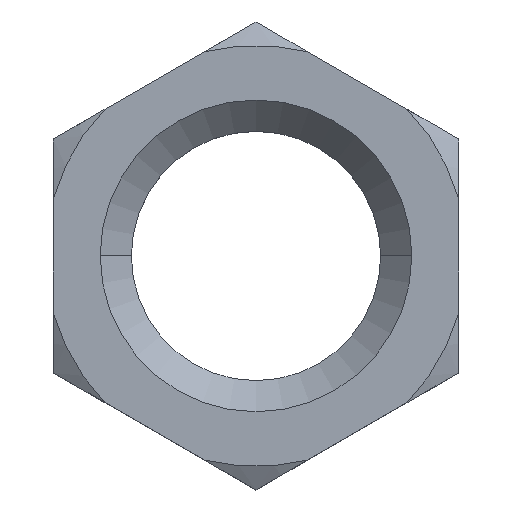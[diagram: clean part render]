
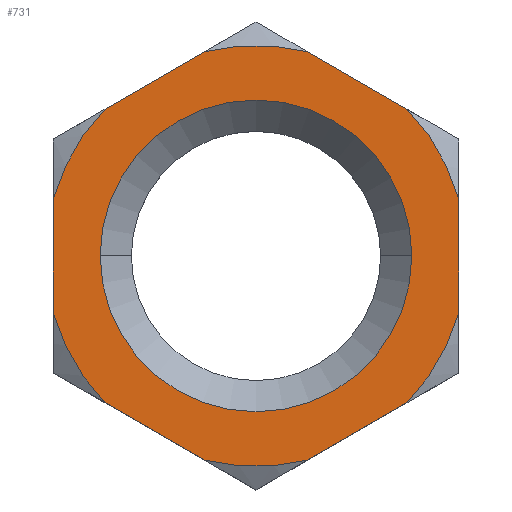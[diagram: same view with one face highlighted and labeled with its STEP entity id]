
A CAD part, top view. The second image highlights one B-rep face of the part: STEP entity #731.
In plain terms, the highlighted planar face has unit normal (0, 0, 1).
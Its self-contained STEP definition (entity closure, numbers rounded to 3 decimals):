
#2 = CARTESIAN_POINT ( 'NONE',  ( 0., 0., 1.85 ) ) ;
#15 = CIRCLE ( 'NONE', #662, 6.756 ) ;
#17 = EDGE_CURVE ( 'NONE', #427, #461, #396, .T. ) ;
#25 = LINE ( 'NONE', #476, #679 ) ;
#36 = ORIENTED_EDGE ( 'NONE', *, *, #506, .F. ) ;
#37 = VECTOR ( 'NONE', #382, 1000. ) ;
#47 = EDGE_CURVE ( 'NONE', #870, #281, #245, .T. ) ;
#48 = DIRECTION ( 'NONE',  ( 1., 0., 0. ) ) ;
#52 = VECTOR ( 'NONE', #556, 1000. ) ;
#57 = EDGE_LOOP ( 'NONE', ( #841, #300 ) ) ;
#58 = CARTESIAN_POINT ( 'NONE',  ( 0., 0., 1.85 ) ) ;
#59 = DIRECTION ( 'NONE',  ( -1., 0., 0. ) ) ;
#72 = DIRECTION ( 'NONE',  ( -1., 0., 0. ) ) ;
#77 = FACE_OUTER_BOUND ( 'NONE', #650, .T. ) ;
#78 = DIRECTION ( 'NONE',  ( 0., 0., -1. ) ) ;
#80 = DIRECTION ( 'NONE',  ( 0., 0., -1. ) ) ;
#82 = AXIS2_PLACEMENT_3D ( 'NONE', #748, #885, #48 ) ;
#100 = DIRECTION ( 'NONE',  ( 1., 0., 0. ) ) ;
#104 = CARTESIAN_POINT ( 'NONE',  ( 0., -7.506, 1.85 ) ) ;
#109 = CARTESIAN_POINT ( 'NONE',  ( 0., 0., 1.85 ) ) ;
#117 = VECTOR ( 'NONE', #742, 1000. ) ;
#120 = CARTESIAN_POINT ( 'NONE',  ( -6.5, 1.841, 1.85 ) ) ;
#125 = VERTEX_POINT ( 'NONE', #780 ) ;
#127 = DIRECTION ( 'NONE',  ( 0., 0., -1. ) ) ;
#129 = ORIENTED_EDGE ( 'NONE', *, *, #843, .T. ) ;
#133 = CARTESIAN_POINT ( 'NONE',  ( -6.5, 3.753, 1.85 ) ) ;
#134 = CARTESIAN_POINT ( 'NONE',  ( 6.5, -1.841, 1.85 ) ) ;
#138 = CIRCLE ( 'NONE', #645, 6.756 ) ;
#148 = ORIENTED_EDGE ( 'NONE', *, *, #47, .F. ) ;
#167 = EDGE_CURVE ( 'NONE', #750, #125, #784, .T. ) ;
#177 = VERTEX_POINT ( 'NONE', #439 ) ;
#184 = CARTESIAN_POINT ( 'NONE',  ( -4.844, 4.709, 1.85 ) ) ;
#186 = FACE_BOUND ( 'NONE', #57, .T. ) ;
#194 = EDGE_CURVE ( 'NONE', #829, #730, #879, .T. ) ;
#200 = DIRECTION ( 'NONE',  ( 0., 0., 1. ) ) ;
#207 = CARTESIAN_POINT ( 'NONE',  ( 1.656, 6.549, 1.85 ) ) ;
#236 = VECTOR ( 'NONE', #915, 1000. ) ;
#241 = AXIS2_PLACEMENT_3D ( 'NONE', #109, #665, #100 ) ;
#243 = EDGE_CURVE ( 'NONE', #750, #344, #15, .T. ) ;
#245 = CIRCLE ( 'NONE', #813, 6.756 ) ;
#247 = CARTESIAN_POINT ( 'NONE',  ( -6.5, -3.753, 1.85 ) ) ;
#251 = CARTESIAN_POINT ( 'NONE',  ( 0., 0., 1.85 ) ) ;
#262 = CARTESIAN_POINT ( 'NONE',  ( 5., 0., 1.85 ) ) ;
#263 = CARTESIAN_POINT ( 'NONE',  ( 6.5, 3.753, 1.85 ) ) ;
#265 = CARTESIAN_POINT ( 'NONE',  ( 0., 0., 1.85 ) ) ;
#267 = EDGE_CURVE ( 'NONE', #722, #384, #577, .T. ) ;
#280 = LINE ( 'NONE', #263, #117 ) ;
#281 = VERTEX_POINT ( 'NONE', #660 ) ;
#285 = EDGE_CURVE ( 'NONE', #461, #427, #595, .T. ) ;
#288 = ORIENTED_EDGE ( 'NONE', *, *, #292, .T. ) ;
#292 = EDGE_CURVE ( 'NONE', #177, #730, #494, .T. ) ;
#297 = ORIENTED_EDGE ( 'NONE', *, *, #194, .F. ) ;
#300 = ORIENTED_EDGE ( 'NONE', *, *, #285, .T. ) ;
#306 = EDGE_CURVE ( 'NONE', #177, #384, #138, .T. ) ;
#325 = CARTESIAN_POINT ( 'NONE',  ( -1.656, 6.549, 1.85 ) ) ;
#326 = VECTOR ( 'NONE', #385, 1000. ) ;
#344 = VERTEX_POINT ( 'NONE', #184 ) ;
#346 = CARTESIAN_POINT ( 'NONE',  ( -5., 0., 1.85 ) ) ;
#364 = EDGE_CURVE ( 'NONE', #705, #344, #25, .T. ) ;
#377 = CIRCLE ( 'NONE', #548, 6.756 ) ;
#378 = ORIENTED_EDGE ( 'NONE', *, *, #837, .T. ) ;
#382 = DIRECTION ( 'NONE',  ( 0.866, 0.5, 0. ) ) ;
#384 = VERTEX_POINT ( 'NONE', #739 ) ;
#385 = DIRECTION ( 'NONE',  ( 0.866, -0.5, 0. ) ) ;
#396 = CIRCLE ( 'NONE', #82, 5. ) ;
#405 = DIRECTION ( 'NONE',  ( 1., 0., 0. ) ) ;
#409 = CARTESIAN_POINT ( 'NONE',  ( -4.844, -4.709, 1.85 ) ) ;
#411 = ORIENTED_EDGE ( 'NONE', *, *, #167, .T. ) ;
#427 = VERTEX_POINT ( 'NONE', #262 ) ;
#439 = CARTESIAN_POINT ( 'NONE',  ( 1.656, -6.549, 1.85 ) ) ;
#461 = VERTEX_POINT ( 'NONE', #346 ) ;
#476 = CARTESIAN_POINT ( 'NONE',  ( 0., 7.506, 1.85 ) ) ;
#479 = ORIENTED_EDGE ( 'NONE', *, *, #306, .F. ) ;
#494 = LINE ( 'NONE', #104, #37 ) ;
#506 = EDGE_CURVE ( 'NONE', #705, #911, #541, .T. ) ;
#514 = DIRECTION ( 'NONE',  ( -1., 0., 0. ) ) ;
#541 = CIRCLE ( 'NONE', #563, 6.756 ) ;
#543 = PLANE ( 'NONE',  #912 ) ;
#546 = ORIENTED_EDGE ( 'NONE', *, *, #267, .T. ) ;
#548 = AXIS2_PLACEMENT_3D ( 'NONE', #265, #888, #59 ) ;
#550 = CARTESIAN_POINT ( 'NONE',  ( 6.5, -3.753, 1.85 ) ) ;
#555 = CARTESIAN_POINT ( 'NONE',  ( 4.844, 4.709, 1.85 ) ) ;
#556 = DIRECTION ( 'NONE',  ( 0., -1., 0. ) ) ;
#562 = DIRECTION ( 'NONE',  ( -1., 0., 0. ) ) ;
#563 = AXIS2_PLACEMENT_3D ( 'NONE', #58, #127, #618 ) ;
#565 = ORIENTED_EDGE ( 'NONE', *, *, #706, .F. ) ;
#571 = DIRECTION ( 'NONE',  ( 0., 0., -1. ) ) ;
#573 = CARTESIAN_POINT ( 'NONE',  ( 0., 0., 1.85 ) ) ;
#577 = LINE ( 'NONE', #247, #326 ) ;
#595 = CIRCLE ( 'NONE', #241, 5. ) ;
#611 = AXIS2_PLACEMENT_3D ( 'NONE', #778, #80, #562 ) ;
#617 = CARTESIAN_POINT ( 'NONE',  ( 4.844, -4.709, 1.85 ) ) ;
#618 = DIRECTION ( 'NONE',  ( -1., 0., 0. ) ) ;
#633 = ORIENTED_EDGE ( 'NONE', *, *, #364, .T. ) ;
#645 = AXIS2_PLACEMENT_3D ( 'NONE', #251, #727, #514 ) ;
#650 = EDGE_LOOP ( 'NONE', ( #297, #129, #148, #378, #36, #633, #914, #411, #565, #546, #479, #288 ) ) ;
#660 = CARTESIAN_POINT ( 'NONE',  ( 6.5, 1.841, 1.85 ) ) ;
#662 = AXIS2_PLACEMENT_3D ( 'NONE', #573, #571, #858 ) ;
#665 = DIRECTION ( 'NONE',  ( 0., 0., -1. ) ) ;
#673 = DIRECTION ( 'NONE',  ( -0.866, -0.5, 0. ) ) ;
#679 = VECTOR ( 'NONE', #673, 1000. ) ;
#705 = VERTEX_POINT ( 'NONE', #325 ) ;
#706 = EDGE_CURVE ( 'NONE', #722, #125, #377, .T. ) ;
#722 = VERTEX_POINT ( 'NONE', #409 ) ;
#727 = DIRECTION ( 'NONE',  ( 0., 0., -1. ) ) ;
#730 = VERTEX_POINT ( 'NONE', #617 ) ;
#731 = ADVANCED_FACE ( 'NONE', ( #186, #77 ), #543, .T. ) ;
#739 = CARTESIAN_POINT ( 'NONE',  ( -1.656, -6.549, 1.85 ) ) ;
#742 = DIRECTION ( 'NONE',  ( -0.866, 0.5, 0. ) ) ;
#748 = CARTESIAN_POINT ( 'NONE',  ( 0., 0., 1.85 ) ) ;
#750 = VERTEX_POINT ( 'NONE', #120 ) ;
#778 = CARTESIAN_POINT ( 'NONE',  ( 0., 0., 1.85 ) ) ;
#780 = CARTESIAN_POINT ( 'NONE',  ( -6.5, -1.841, 1.85 ) ) ;
#784 = LINE ( 'NONE', #133, #52 ) ;
#813 = AXIS2_PLACEMENT_3D ( 'NONE', #2, #78, #72 ) ;
#829 = VERTEX_POINT ( 'NONE', #134 ) ;
#837 = EDGE_CURVE ( 'NONE', #870, #911, #280, .T. ) ;
#841 = ORIENTED_EDGE ( 'NONE', *, *, #17, .T. ) ;
#843 = EDGE_CURVE ( 'NONE', #829, #281, #881, .T. ) ;
#858 = DIRECTION ( 'NONE',  ( -1., 0., 0. ) ) ;
#870 = VERTEX_POINT ( 'NONE', #555 ) ;
#879 = CIRCLE ( 'NONE', #611, 6.756 ) ;
#881 = LINE ( 'NONE', #550, #236 ) ;
#885 = DIRECTION ( 'NONE',  ( 0., 0., -1. ) ) ;
#888 = DIRECTION ( 'NONE',  ( 0., 0., -1. ) ) ;
#895 = CARTESIAN_POINT ( 'NONE',  ( 0., 0., 1.85 ) ) ;
#911 = VERTEX_POINT ( 'NONE', #207 ) ;
#912 = AXIS2_PLACEMENT_3D ( 'NONE', #895, #200, #405 ) ;
#914 = ORIENTED_EDGE ( 'NONE', *, *, #243, .F. ) ;
#915 = DIRECTION ( 'NONE',  ( 0., 1., 0. ) ) ;
